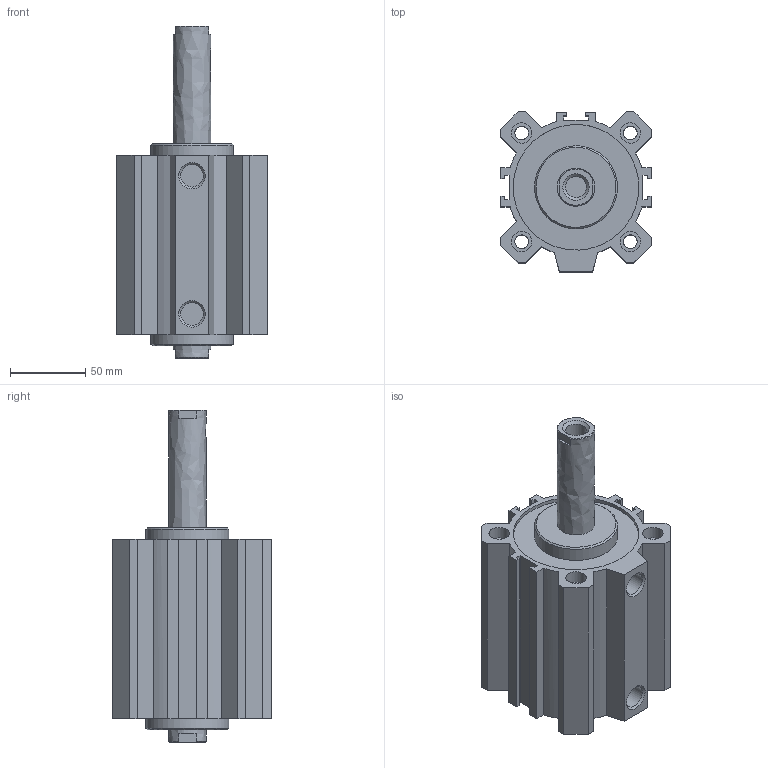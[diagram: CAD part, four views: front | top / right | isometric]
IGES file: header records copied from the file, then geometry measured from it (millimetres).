
Global section: file name: 1514_80_0070; native system: Autodesk Inventor 2014; preprocessor: unknown; author: A. Manieri; date: 20160824.142413; units: millimetre
Bounding box: 100 x 106 x 220 mm (x, y, z)
Volume: 713794.2 mm3; surface area: 165201.5 mm2
Topology: 2 solids, 2 shells, 132 faces, 346 edges, 238 vertices
Faces by surface type: bspline 132
